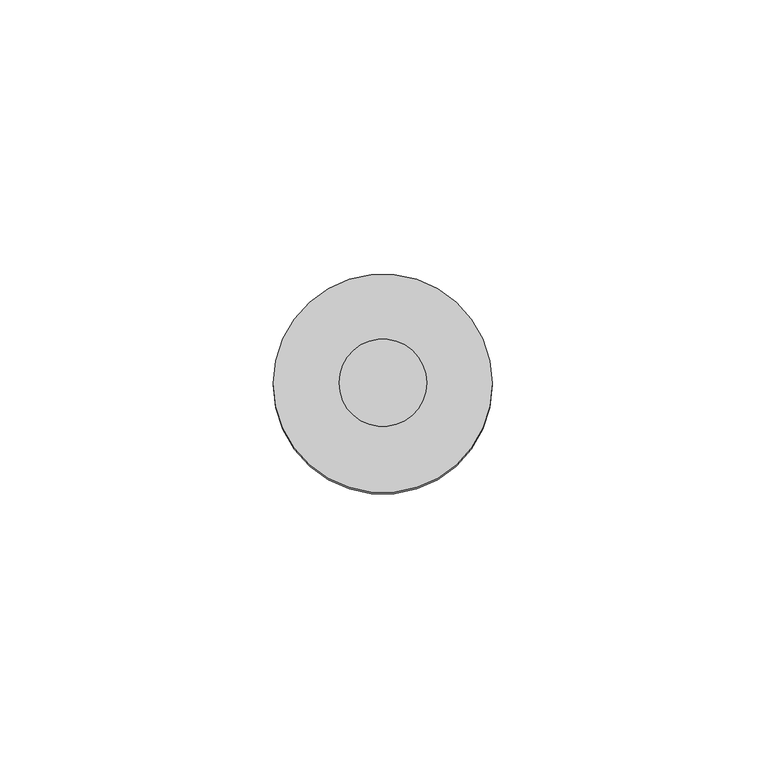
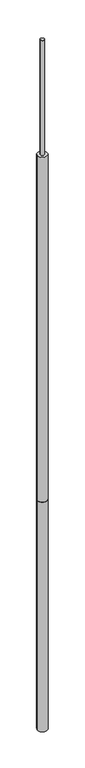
"""IFC4 building model written with IfcOpenShell, lengths in millimetres: proxy geometry, КНС_МачтаИзолированнаяМолниеприемная_DKC : NL3000HV_Нержавеющая сталь_3м."""

from ifc_helpers import new_model, si_unit, point, frame, origin, origin_with_axes, origin_2d, place, context, project, spatial, circle_curve, trimmed, segment, composite_curve, outline, extrude, source, transform, mapped, element, save


def security_devices_0043915d(model_context):
    return source(origin(), model_context, "Body", "SweptSolid", [
        extrude(outline(composite_curve([segment(trimmed(circle_curve(origin_2d(), 8.0), [point((-8.0, 0.0))], [point((8.0, 0.0))], False, "CARTESIAN"), True, "CONTINUOUS"), segment(trimmed(circle_curve(origin_2d(), 8.0), [point((8.0, 0.0))], [point((-8.0, 0.0))], False, "CARTESIAN"), True, "CONTINUOUS")], self_intersect=False)), frame((0.0, 0.0, 2500.0), z_axis=(0.0, 0.0, 1.0), x_axis=(1.0, 0.0, 0.0)), (0.0, 0.0, 1.0), 500.0),
        extrude(outline(composite_curve([segment(trimmed(circle_curve(origin_2d(), 20.0), [point((-20.0, 0.0))], [point((20.0, 0.0))], False, "CARTESIAN"), True, "CONTINUOUS"), segment(trimmed(circle_curve(origin_2d(), 20.0), [point((20.0, 0.0))], [point((-20.0, 0.0))], False, "CARTESIAN"), True, "CONTINUOUS")], self_intersect=False)), frame((0.0, 0.0, 1000.0), z_axis=(0.0, 0.0, 1.0), x_axis=(1.0, 0.0, 0.0)), (0.0, 0.0, 1.0), 1500.0),
        extrude(outline(composite_curve([segment(trimmed(circle_curve(origin_2d(), 20.0), [point((-20.0, 0.0))], [point((20.0, 0.0))], False, "CARTESIAN"), True, "CONTINUOUS"), segment(trimmed(circle_curve(origin_2d(), 20.0), [point((20.0, 0.0))], [point((-20.0, 0.0))], False, "CARTESIAN"), True, "CONTINUOUS")], self_intersect=False)), origin_with_axes(), (0.0, 0.0, 1.0), 1000.0),
    ])


if __name__ == "__main__":
    model = new_model("IFC4")
    model_context = context("Model", 3, world=origin())
    ifc_project = project(units=[si_unit("LENGTHUNIT", "METRE", prefix="MILLI")], contexts=[model_context])
    site = spatial("IfcSite", under=ifc_project)
    building = spatial("IfcBuilding", under=site)
    placement = place(None, origin())
    security_devices_shape = security_devices_0043915d(model_context)
    element("IfcBuildingElementProxy", 1, Name="КНС_МачтаИзолированнаяМолниеприемная_DKC : NL3000HV_Нержавеющая сталь_3м", ObjectType="КНС_МачтаИзолированнаяМолниеприемная_DKC : NL3000HV_Нержавеющая сталь_3м", at=placement, inside=building, context=model_context, shape_type="MappedRepresentation", body=[
        mapped(security_devices_shape, transform((0.0, 0.0, 0.0), x_axis=(1.0, 0.0, 0.0), y_axis=(0.0, 1.0, 0.0), z_axis=(0.0, 0.0, 1.0))),
    ])
    save(model, "model.ifc")
